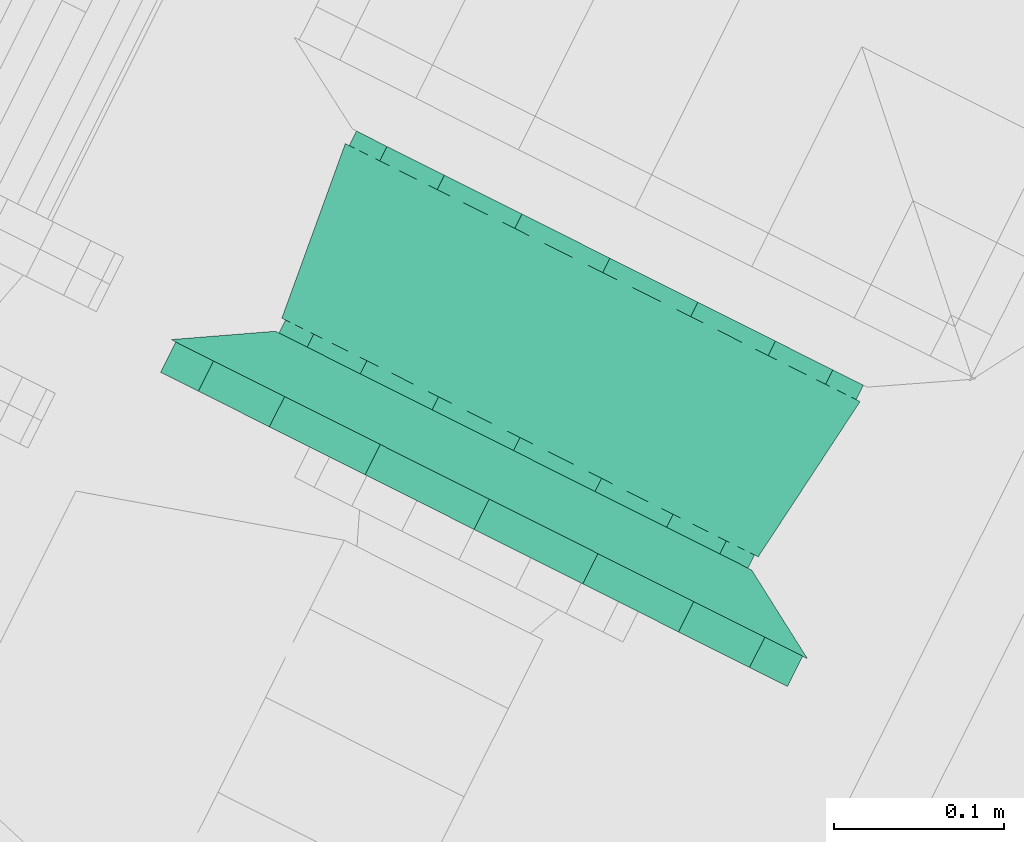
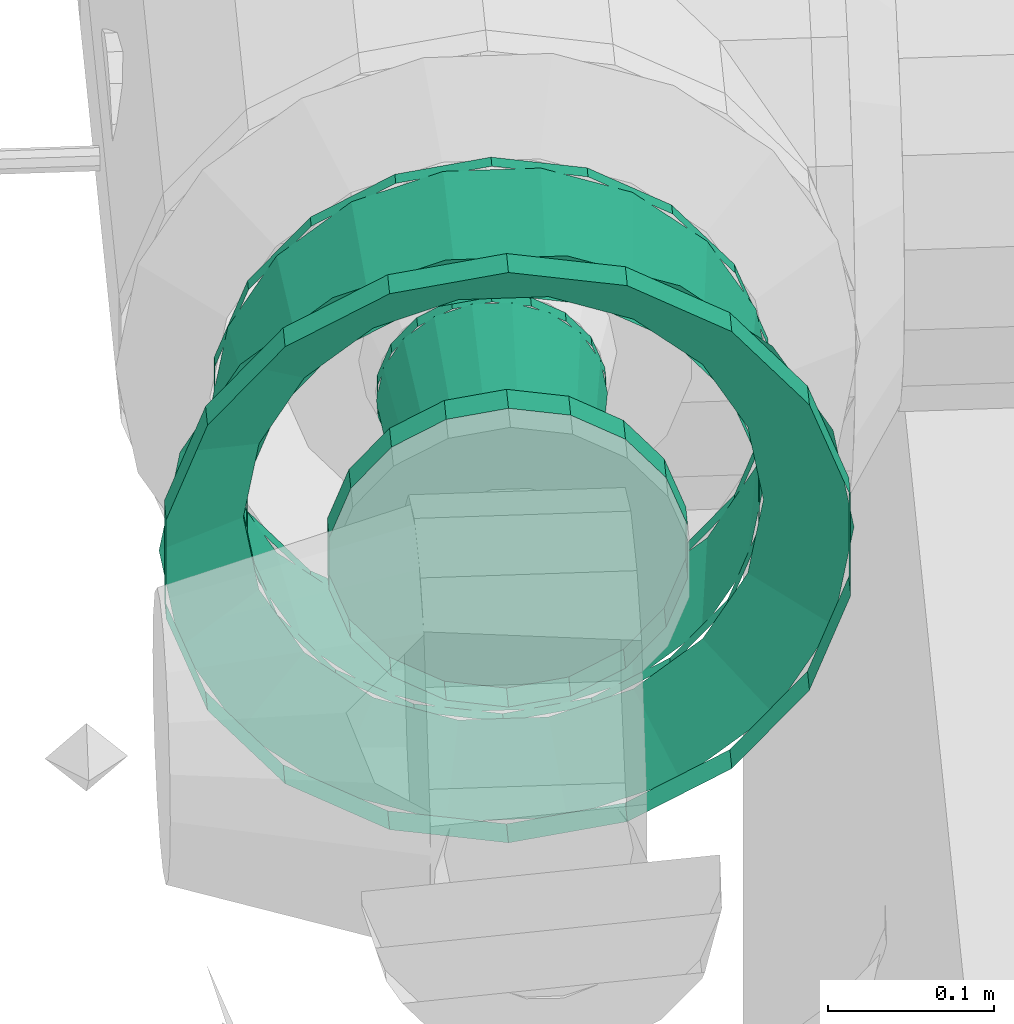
# One storey, part 71 of 206: 2 flow fittings.
"""IFC2X3 building model written with IfcOpenShell, lengths in metres."""

from ifc_helpers import new_model, si_unit, derived_unit, direction, frame, origin, place, context, subcontext, project, spatial, face_set, surface_model, source, transform, mapped, material, type_object, type_shapes, element, save


model = new_model("IFC2X3")

# Units and contexts
model_context = context("Model", 3, precision=5.2338327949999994e-05, world=origin(), true_north=direction((0.0, 1.0)))
body_context = subcontext(model_context, "Body", "Model", "MODEL_VIEW")
ifc_project = project(units=[si_unit("LENGTHUNIT", "METRE"), si_unit("AREAUNIT", "SQUARE_METRE"), si_unit("VOLUMEUNIT", "CUBIC_METRE"), si_unit("MASSUNIT", "GRAM", prefix="KILO"), si_unit("PLANEANGLEUNIT", "RADIAN"), derived_unit("THERMALTRANSMITTANCEUNIT", [(si_unit("MASSUNIT", "GRAM", prefix="KILO"), 1), (si_unit("THERMODYNAMICTEMPERATUREUNIT", "KELVIN"), -1), (si_unit("TIMEUNIT", "SECOND"), -3)])], contexts=[model_context])

# Site, building, storey
site_placement = place(None, frame((0.0, 0.0, 0.0), z_axis=(0.0, 0.0, 1.0), x_axis=(0.8939966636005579, -0.4480736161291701, 0.0)))
site = spatial("IfcSite", under=ifc_project, at=site_placement, Name="Default", CompositionType="ELEMENT")
building_placement = place(site_placement, origin())
building = spatial("IfcBuilding", under=site, at=building_placement, CompositionType="ELEMENT")
storey_placement = place(building_placement, origin())
storey = spatial("IfcBuildingStorey", under=building, at=storey_placement, Name="Erdgeschoss", CompositionType="ELEMENT", Elevation=0.0)

# Flow fittings
ifc_material = material(Name="IfcSurfaceStyle #1741")
distribution_element_type_1 = type_object("IfcDistributionElementType", Name="Flansch 340765:Flansch 340765", material=ifc_material)
shared_shape_1 = source(origin(), body_context, "Body", "SurfaceModel", [
    surface_model("IfcFaceBasedSurfaceModel", [(25.43985543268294, 6.22496109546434, 2.4639999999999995), (25.477477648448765, 6.22496109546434, 2.4573661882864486), (25.477477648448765, 6.2449610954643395, 2.4573661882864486), (25.43985543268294, 6.244961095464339, 2.4639999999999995), (25.510562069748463, 6.22496109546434, 2.4382648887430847), (25.510562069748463, 6.2449610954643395, 2.4382648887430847), (25.535118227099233, 6.22496109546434, 2.4089999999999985), (25.535118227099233, 6.2449610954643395, 2.4089999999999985), (25.54818428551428, 6.22496109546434, 2.3731012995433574), (25.54818428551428, 6.2449610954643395, 2.3731012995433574), (25.54818428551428, 6.22496109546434, 2.334898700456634), (25.54818428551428, 6.2449610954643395, 2.334898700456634), (25.535118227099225, 6.22496109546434, 2.2989999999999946), (25.535118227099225, 6.2449610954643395, 2.2989999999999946), (25.51056206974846, 6.22496109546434, 2.26973511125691), (25.51056206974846, 6.2449610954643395, 2.26973511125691), (25.47747764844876, 6.22496109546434, 2.2506338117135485), (25.47747764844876, 6.2449610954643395, 2.2506338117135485), (25.439855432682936, 6.22496109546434, 2.243999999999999), (25.439855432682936, 6.2449610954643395, 2.243999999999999), (25.40223321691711, 6.22496109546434, 2.2506338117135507), (25.40223321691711, 6.2449610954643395, 2.2506338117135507), (25.369148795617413, 6.22496109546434, 2.269735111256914), (25.369148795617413, 6.2449610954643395, 2.269735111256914), (25.344592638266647, 6.22496109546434, 2.2990000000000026), (25.344592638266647, 6.2449610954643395, 2.2990000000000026), (25.331526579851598, 6.22496109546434, 2.334898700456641), (25.331526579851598, 6.2449610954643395, 2.334898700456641), (25.331526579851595, 6.22496109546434, 2.373101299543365), (25.331526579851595, 6.2449610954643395, 2.373101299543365), (25.344592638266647, 6.22496109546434, 2.4090000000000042), (25.344592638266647, 6.2449610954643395, 2.4090000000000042), (25.369148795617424, 6.22496109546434, 2.438264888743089), (25.369148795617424, 6.2449610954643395, 2.438264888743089), (25.402233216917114, 6.22496109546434, 2.4573661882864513), (25.402233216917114, 6.2449610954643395, 2.4573661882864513), (25.439855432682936, 6.244961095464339, 2.3539999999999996), (25.505355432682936, 6.2449610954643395, 2.3539999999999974), (25.501405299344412, 6.2449610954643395, 2.331597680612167), (25.493558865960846, 6.2769610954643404, 2.3344535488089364), (25.497005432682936, 6.2769610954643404, 2.3539999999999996), (25.490031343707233, 6.2449610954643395, 2.3118974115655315), (25.483634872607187, 6.2769610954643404, 2.317264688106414), (25.472605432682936, 6.2449610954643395, 2.2972753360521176), (25.468430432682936, 6.2769610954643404, 2.3045066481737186), (25.45122938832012, 6.2449610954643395, 2.2894950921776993), (25.449779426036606, 6.2769610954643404, 2.297718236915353), (25.428481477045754, 6.2449610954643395, 2.2894950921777), (25.429931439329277, 6.2769610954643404, 2.2977182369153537), (25.407105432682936, 6.2449610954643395, 2.2972753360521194), (25.411280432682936, 6.2769610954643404, 2.3045066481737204), (25.389679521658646, 6.2449610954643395, 2.3118974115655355), (25.396075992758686, 6.2769610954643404, 2.317264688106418), (25.37830556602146, 6.2449610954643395, 2.3315976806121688), (25.386151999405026, 6.2769610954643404, 2.3344535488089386), (25.37435543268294, 6.244961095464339, 2.354000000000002), (25.382705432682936, 6.276961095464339, 2.3540000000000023), (25.37830556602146, 6.2449610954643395, 2.3764023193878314), (25.386151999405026, 6.2769610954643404, 2.3735464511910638), (25.389679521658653, 6.244961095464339, 2.396102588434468), (25.396075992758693, 6.276961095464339, 2.3907353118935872), (25.40710543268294, 6.2449610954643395, 2.410724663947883), (25.411280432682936, 6.2769610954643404, 2.4034933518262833), (25.428481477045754, 6.2449610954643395, 2.418504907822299), (25.429931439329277, 6.2769610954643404, 2.4102817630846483), (25.451229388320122, 6.2449610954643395, 2.4185049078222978), (25.449779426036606, 6.2769610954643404, 2.4102817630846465), (25.472605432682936, 6.2449610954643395, 2.4107246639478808), (25.468430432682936, 6.2769610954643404, 2.4034933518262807), (25.490031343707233, 6.2449610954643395, 2.3961025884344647), (25.48363487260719, 6.2769610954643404, 2.390735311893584), (25.501405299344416, 6.2449610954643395, 2.376402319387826), (25.49355886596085, 6.2769610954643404, 2.3735464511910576), (25.43985543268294, 6.22496109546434, 2.564), (25.511679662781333, 6.22496109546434, 2.551335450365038), (25.511679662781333, 6.2449610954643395, 2.551335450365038), (25.439855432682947, 6.244961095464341, 2.5639999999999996), (25.574840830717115, 6.22496109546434, 2.514869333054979), (25.574840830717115, 6.2449610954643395, 2.514869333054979), (25.621720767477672, 6.22496109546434, 2.458999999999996), (25.621720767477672, 6.2449610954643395, 2.458999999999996), (25.646665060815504, 6.22496109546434, 2.3904661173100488), (25.646665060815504, 6.2449610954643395, 2.3904661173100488), (25.6466650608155, 6.22496109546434, 2.317533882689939), (25.6466650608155, 6.2449610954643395, 2.317533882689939), (25.62172076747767, 6.22496109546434, 2.2489999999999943), (25.62172076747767, 6.2449610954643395, 2.2489999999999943), (25.574840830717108, 6.22496109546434, 2.1931306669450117), (25.574840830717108, 6.2449610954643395, 2.1931306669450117), (25.511679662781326, 6.22496109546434, 2.1566645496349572), (25.511679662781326, 6.2449610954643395, 2.1566645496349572), (25.439855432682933, 6.22496109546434, 2.1439999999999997), (25.439855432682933, 6.2449610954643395, 2.1439999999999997), (25.368031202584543, 6.22496109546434, 2.156664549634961), (25.368031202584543, 6.2449610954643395, 2.156664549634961), (25.30487003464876, 6.22496109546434, 2.1931306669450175), (25.30487003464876, 6.2449610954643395, 2.1931306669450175), (25.257990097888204, 6.22496109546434, 2.249000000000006), (25.257990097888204, 6.2449610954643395, 2.249000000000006), (25.233045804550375, 6.22496109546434, 2.3175338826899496), (25.233045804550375, 6.2449610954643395, 2.3175338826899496), (25.23304580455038, 6.22496109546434, 2.3904661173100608), (25.23304580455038, 6.2449610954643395, 2.3904661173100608), (25.257990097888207, 6.22496109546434, 2.459000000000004), (25.257990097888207, 6.2449610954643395, 2.459000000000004), (25.304870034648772, 6.22496109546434, 2.514869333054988), (25.304870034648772, 6.2449610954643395, 2.514869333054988), (25.368031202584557, 6.22496109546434, 2.5513354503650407), (25.368031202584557, 6.2449610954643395, 2.5513354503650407), (25.64985543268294, 6.244961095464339, 2.353999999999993), (25.63719088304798, 6.244961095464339, 2.2821757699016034), (25.587528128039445, 6.276961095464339, 2.3002515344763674), (25.59700543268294, 6.276961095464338, 2.353999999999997), (25.600724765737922, 6.2449610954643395, 2.2190146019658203), (25.56023931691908, 6.2769610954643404, 2.2529859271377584), (25.544855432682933, 6.244961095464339, 2.1721346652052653), (25.518430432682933, 6.276961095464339, 2.217904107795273), (25.476321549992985, 6.244961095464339, 2.147190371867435), (25.467144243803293, 6.276961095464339, 2.1992374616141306), (25.403389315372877, 6.2449610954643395, 2.1471903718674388), (25.41256662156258, 6.2769610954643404, 2.199237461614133), (25.33485543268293, 6.244961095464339, 2.172134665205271), (25.361280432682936, 6.276961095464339, 2.217904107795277), (25.278986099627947, 6.244961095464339, 2.2190146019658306), (25.319471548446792, 6.276961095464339, 2.2529859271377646), (25.242519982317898, 6.244961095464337, 2.2821757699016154), (25.29218273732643, 6.276961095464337, 2.300251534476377), (25.229855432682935, 6.244961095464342, 2.354000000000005), (25.282705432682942, 6.276961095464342, 2.354000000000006), (25.2425199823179, 6.244961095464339, 2.425824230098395), (25.292182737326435, 6.276961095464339, 2.407748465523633), (25.278986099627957, 6.244961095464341, 2.488985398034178), (25.319471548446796, 6.276961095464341, 2.455014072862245), (25.334855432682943, 6.2449610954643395, 2.5358653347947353), (25.361280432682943, 6.2769610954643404, 2.490095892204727), (25.40338931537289, 6.244961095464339, 2.5608096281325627), (25.412566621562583, 6.276961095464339, 2.5087625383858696), (25.476321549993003, 6.2449610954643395, 2.5608096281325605), (25.467144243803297, 6.2769610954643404, 2.5087625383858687), (25.544855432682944, 6.2449610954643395, 2.5358653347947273), (25.518430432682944, 6.2769610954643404, 2.490095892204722), (25.600724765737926, 6.244961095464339, 2.4889853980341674), (25.56023931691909, 6.276961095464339, 2.4550140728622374), (25.637190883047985, 6.2449610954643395, 2.425824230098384), (25.587528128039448, 6.2769610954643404, 2.407748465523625)], [face_set([[[0, 1, 2, 3]], [[1, 4, 5, 2]], [[4, 6, 7, 5]], [[6, 8, 9, 7]], [[8, 10, 11, 9]], [[10, 12, 13, 11]], [[12, 14, 15, 13]], [[14, 16, 17, 15]], [[16, 18, 19, 17]], [[18, 20, 21, 19]], [[20, 22, 23, 21]], [[22, 24, 25, 23]], [[24, 26, 27, 25]], [[26, 28, 29, 27]], [[28, 30, 31, 29]], [[30, 32, 33, 31]], [[32, 34, 35, 33]], [[34, 0, 3, 35]], [[36, 35, 3]], [[36, 33, 35]], [[36, 31, 33]], [[36, 29, 31]], [[36, 27, 29]], [[36, 25, 27]], [[36, 23, 25]], [[36, 21, 23]], [[36, 19, 21]], [[36, 17, 19]], [[36, 15, 17]], [[36, 13, 15]], [[36, 11, 13]], [[36, 9, 11]], [[36, 7, 9]], [[36, 5, 7]], [[36, 2, 5]], [[36, 3, 2]], [[37, 38, 39, 40]], [[38, 41, 42, 39]], [[41, 43, 44, 42]], [[43, 45, 46, 44]], [[45, 47, 48, 46]], [[47, 49, 50, 48]], [[49, 51, 52, 50]], [[51, 53, 54, 52]], [[53, 55, 56, 54]], [[55, 57, 58, 56]], [[57, 59, 60, 58]], [[59, 61, 62, 60]], [[61, 63, 64, 62]], [[63, 65, 66, 64]], [[65, 67, 68, 66]], [[67, 69, 70, 68]], [[69, 71, 72, 70]], [[71, 37, 40, 72]], [[73, 74, 75, 76]], [[74, 77, 78, 75]], [[77, 79, 80, 78]], [[79, 81, 82, 80]], [[81, 83, 84, 82]], [[83, 85, 86, 84]], [[85, 87, 88, 86]], [[87, 89, 90, 88]], [[89, 91, 92, 90]], [[91, 93, 94, 92]], [[93, 95, 96, 94]], [[95, 97, 98, 96]], [[97, 99, 100, 98]], [[99, 101, 102, 100]], [[101, 103, 104, 102]], [[103, 105, 106, 104]], [[105, 107, 108, 106]], [[107, 73, 76, 108]], [[109, 110, 111, 112]], [[110, 113, 114, 111]], [[113, 115, 116, 114]], [[115, 117, 118, 116]], [[117, 119, 120, 118]], [[119, 121, 122, 120]], [[121, 123, 124, 122]], [[123, 125, 126, 124]], [[125, 127, 128, 126]], [[127, 129, 130, 128]], [[129, 131, 132, 130]], [[131, 133, 134, 132]], [[133, 135, 136, 134]], [[135, 137, 138, 136]], [[137, 139, 140, 138]], [[139, 141, 142, 140]], [[141, 143, 144, 142]], [[143, 109, 112, 144]]])]),
])
type_shapes(distribution_element_type_1, [shared_shape_1])
flow_fitting_1_placement = place(storey_placement, origin())
element("IfcFlowFitting", 1, at=flow_fitting_1_placement, inside=storey, type_object=distribution_element_type_1, material=ifc_material, Name="Flansch", ObjectType="Flansch", context=body_context, shape_type="MappedRepresentation", body=[
    mapped(shared_shape_1, transform((0.0, 0.0, 0.0), scale=1.0)),
])
distribution_element_type_2 = type_object("IfcDistributionElementType", Name="Übergangsstück 340788:Übergangsstück 340788", material=ifc_material)
shared_shape_2 = source(origin(), body_context, "Body", "SurfaceModel", [
    surface_model("IfcFaceBasedSurfaceModel", [(25.43985543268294, 6.403961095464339, 2.4238499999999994), (25.415965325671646, 6.403961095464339, 2.4196375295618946), (25.415965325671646, 6.3944319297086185, 2.4196375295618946), (25.43985543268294, 6.3944319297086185, 2.4238499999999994), (25.39495671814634, 6.403961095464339, 2.4075082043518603), (25.39495671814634, 6.3944319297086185, 2.4075082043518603), (25.379363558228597, 6.403961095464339, 2.388925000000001), (25.379363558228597, 6.3944319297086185, 2.388925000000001), (25.37106661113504, 6.403961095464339, 2.3661293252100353), (25.37106661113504, 6.3944319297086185, 2.3661293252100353), (25.37106661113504, 6.403961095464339, 2.341870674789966), (25.37106661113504, 6.3944319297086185, 2.341870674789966), (25.379363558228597, 6.403961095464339, 2.3190750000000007), (25.379363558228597, 6.3944319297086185, 2.3190750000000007), (25.394956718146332, 6.403961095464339, 2.3004917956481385), (25.394956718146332, 6.3944319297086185, 2.3004917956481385), (25.415965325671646, 6.403961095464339, 2.2883624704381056), (25.415965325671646, 6.3944319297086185, 2.2883624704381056), (25.43985543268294, 6.403961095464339, 2.28415), (25.43985543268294, 6.3944319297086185, 2.28415), (25.463745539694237, 6.403961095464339, 2.2883624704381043), (25.463745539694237, 6.3944319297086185, 2.2883624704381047), (25.484754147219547, 6.403961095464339, 2.3004917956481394), (25.484754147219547, 6.3944319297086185, 2.3004917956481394), (25.500347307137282, 6.403961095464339, 2.319074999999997), (25.500347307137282, 6.3944319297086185, 2.319074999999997), (25.50864425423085, 6.403961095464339, 2.3418706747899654), (25.50864425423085, 6.3944319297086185, 2.3418706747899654), (25.50864425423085, 6.403961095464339, 2.366129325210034), (25.50864425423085, 6.3944319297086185, 2.366129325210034), (25.500347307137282, 6.403961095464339, 2.3889249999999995), (25.500347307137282, 6.3944319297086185, 2.3889249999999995), (25.484754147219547, 6.403961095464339, 2.40750820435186), (25.484754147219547, 6.3944319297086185, 2.40750820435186), (25.46374553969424, 6.403961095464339, 2.419637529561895), (25.46374553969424, 6.3944319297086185, 2.419637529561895), (25.439855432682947, 6.403961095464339, 2.5238500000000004), (25.381763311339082, 6.403961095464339, 2.5136067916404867), (25.381763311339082, 6.3944319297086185, 2.5136067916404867), (25.439855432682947, 6.3944319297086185, 2.5238500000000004), (25.330677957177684, 6.403961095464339, 2.4841126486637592), (25.330677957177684, 6.3944319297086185, 2.4841126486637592), (25.292761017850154, 6.403961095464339, 2.4389250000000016), (25.292761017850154, 6.3944319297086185, 2.4389250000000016), (25.272585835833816, 6.403961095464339, 2.3834941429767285), (25.272585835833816, 6.3944319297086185, 2.3834941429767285), (25.272585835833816, 6.403961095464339, 2.324505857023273), (25.272585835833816, 6.3944319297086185, 2.324505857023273), (25.292761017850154, 6.403961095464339, 2.269075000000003), (25.292761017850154, 6.3944319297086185, 2.269075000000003), (25.330677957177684, 6.403961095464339, 2.2238873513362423), (25.330677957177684, 6.3944319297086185, 2.2238873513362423), (25.38176331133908, 6.403961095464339, 2.1943932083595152), (25.38176331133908, 6.3944319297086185, 2.1943932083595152), (25.439855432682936, 6.403961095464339, 2.18415), (25.439855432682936, 6.3944319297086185, 2.18415), (25.497947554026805, 6.403961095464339, 2.1943932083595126), (25.497947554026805, 6.3944319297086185, 2.1943932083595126), (25.5490329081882, 6.403961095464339, 2.2238873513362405), (25.5490329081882, 6.3944319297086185, 2.2238873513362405), (25.58694984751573, 6.403961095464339, 2.2690749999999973), (25.58694984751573, 6.3944319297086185, 2.2690749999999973), (25.607125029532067, 6.403961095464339, 2.3245058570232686), (25.607125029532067, 6.3944319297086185, 2.3245058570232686), (25.607125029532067, 6.403961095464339, 2.3834941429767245), (25.607125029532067, 6.3944319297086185, 2.3834941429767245), (25.58694984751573, 6.403961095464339, 2.438924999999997), (25.58694984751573, 6.3944319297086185, 2.438924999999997), (25.5490329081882, 6.403961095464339, 2.4841126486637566), (25.5490329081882, 6.3944319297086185, 2.4841126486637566), (25.49794755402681, 6.403961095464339, 2.5136067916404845), (25.49794755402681, 6.3944319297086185, 2.5136067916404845), (25.370005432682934, 6.394431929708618, 2.3539999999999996), (25.374217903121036, 6.394431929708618, 2.330109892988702), (25.38615199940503, 6.285580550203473, 2.3344535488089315), (25.38270543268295, 6.285580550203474, 2.353999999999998), (25.386347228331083, 6.3944319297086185, 2.3091012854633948), (25.3960759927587, 6.285580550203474, 2.31726468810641), (25.404930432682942, 6.3944319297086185, 2.293508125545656), (25.411280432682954, 6.285580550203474, 2.3045066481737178), (25.427726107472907, 6.3944319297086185, 2.285211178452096), (25.429931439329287, 6.285580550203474, 2.297718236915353), (25.45198475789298, 6.3944319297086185, 2.285211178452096), (25.449779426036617, 6.285580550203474, 2.2977182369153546), (25.474780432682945, 6.3944319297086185, 2.293508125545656), (25.468430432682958, 6.285580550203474, 2.3045066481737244), (25.493363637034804, 6.3944319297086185, 2.3091012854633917), (25.483634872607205, 6.285580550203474, 2.3172646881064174), (25.505492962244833, 6.3944319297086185, 2.3301098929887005), (25.493558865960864, 6.285580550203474, 2.3344535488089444), (25.509705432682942, 6.3944319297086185, 2.3539999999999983), (25.49700543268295, 6.285580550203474, 2.3540000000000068), (25.505492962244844, 6.3944319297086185, 2.377890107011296), (25.493558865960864, 6.285580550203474, 2.3735464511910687), (25.493363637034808, 6.3944319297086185, 2.398898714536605), (25.483634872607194, 6.285580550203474, 2.3907353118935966), (25.47478043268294, 6.3944319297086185, 2.414491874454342), (25.46843043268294, 6.285580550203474, 2.4034933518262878), (25.45198475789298, 6.3944319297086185, 2.422788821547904), (25.449779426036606, 6.285580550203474, 2.410281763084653), (25.427726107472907, 6.3944319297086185, 2.422788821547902), (25.429931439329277, 6.285580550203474, 2.410281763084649), (25.404930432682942, 6.3944319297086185, 2.414491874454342), (25.41128043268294, 6.285580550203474, 2.403493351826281), (25.386347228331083, 6.3944319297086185, 2.398898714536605), (25.396075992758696, 6.285580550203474, 2.390735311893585), (25.37421790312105, 6.3944319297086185, 2.3778901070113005), (25.386151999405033, 6.285580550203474, 2.373546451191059), (25.43985543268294, 6.285580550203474, 2.4111500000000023), (25.42030898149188, 6.285580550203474, 2.4077034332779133), (25.42030898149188, 6.276961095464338, 2.4077034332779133), (25.43985543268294, 6.276961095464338, 2.4111500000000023), (25.40312012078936, 6.285580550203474, 2.397779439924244), (25.40312012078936, 6.276961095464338, 2.397779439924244), (25.39036208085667, 6.285580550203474, 2.382574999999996), (25.39036208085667, 6.276961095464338, 2.382574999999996), (25.3835736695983, 6.285580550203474, 2.3639239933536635), (25.3835736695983, 6.276961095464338, 2.3639239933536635), (25.3835736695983, 6.285580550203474, 2.344076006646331), (25.3835736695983, 6.276961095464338, 2.344076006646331), (25.390362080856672, 6.285580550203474, 2.3254249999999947), (25.390362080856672, 6.276961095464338, 2.3254249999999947), (25.40312012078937, 6.285580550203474, 2.3102205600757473), (25.40312012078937, 6.276961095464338, 2.3102205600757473), (25.420308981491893, 6.285580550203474, 2.3002965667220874), (25.420308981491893, 6.276961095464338, 2.3002965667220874), (25.439855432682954, 6.285580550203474, 2.296850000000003), (25.439855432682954, 6.276961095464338, 2.296850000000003), (25.45940188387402, 6.285580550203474, 2.3002965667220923), (25.45940188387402, 6.276961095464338, 2.3002965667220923), (25.476590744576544, 6.285580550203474, 2.3102205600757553), (25.476590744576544, 6.276961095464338, 2.3102205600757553), (25.489348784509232, 6.285580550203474, 2.3254250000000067), (25.489348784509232, 6.276961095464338, 2.3254250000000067), (25.4961371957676, 6.285580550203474, 2.3440760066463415), (25.4961371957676, 6.276961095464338, 2.3440760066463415), (25.4961371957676, 6.285580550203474, 2.363923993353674), (25.4961371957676, 6.276961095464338, 2.363923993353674), (25.489348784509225, 6.285580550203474, 2.38257500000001), (25.489348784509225, 6.276961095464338, 2.38257500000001), (25.47659074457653, 6.285580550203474, 2.397779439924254), (25.47659074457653, 6.276961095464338, 2.397779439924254), (25.459401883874, 6.285580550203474, 2.4077034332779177), (25.459401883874, 6.276961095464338, 2.4077034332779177), (25.27000543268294, 6.3944319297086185, 2.354000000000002), (25.280248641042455, 6.3944319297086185, 2.2959078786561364), (25.292182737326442, 6.285580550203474, 2.3002515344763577), (25.282705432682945, 6.285580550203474, 2.353999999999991), (25.309742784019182, 6.3944319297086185, 2.244822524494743), (25.31947154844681, 6.285580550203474, 2.252985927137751), (25.35493043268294, 6.3944319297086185, 2.206905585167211), (25.36128043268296, 6.285580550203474, 2.2179041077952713), (25.410361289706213, 6.3944319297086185, 2.1867304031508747), (25.412566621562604, 6.285580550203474, 2.1992374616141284), (25.46934957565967, 6.3944319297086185, 2.186730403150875), (25.467144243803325, 6.285580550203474, 2.199237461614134), (25.52478043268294, 6.3944319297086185, 2.2069055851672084), (25.518430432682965, 6.285580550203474, 2.2179041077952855), (25.5699680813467, 6.3944319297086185, 2.2448225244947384), (25.56023931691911, 6.285580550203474, 2.2529859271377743), (25.599462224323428, 6.3944319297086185, 2.2959078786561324), (25.587528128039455, 6.285580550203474, 2.3002515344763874), (25.60970543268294, 6.3944319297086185, 2.353999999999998), (25.59700543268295, 6.285580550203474, 2.3540000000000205), (25.599462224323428, 6.3944319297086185, 2.412092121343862), (25.58752812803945, 6.285580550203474, 2.4077484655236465), (25.569968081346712, 6.3944319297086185, 2.4631774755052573), (25.56023931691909, 6.285580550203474, 2.4550140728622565), (25.524780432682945, 6.3944319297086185, 2.5010944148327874), (25.518430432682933, 6.285580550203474, 2.490095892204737), (25.46934957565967, 6.3944319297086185, 2.521269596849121), (25.467144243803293, 6.285580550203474, 2.5087625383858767), (25.410361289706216, 6.3944319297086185, 2.5212695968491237), (25.41256662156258, 6.285580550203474, 2.5087625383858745), (25.354930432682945, 6.3944319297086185, 2.50109441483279), (25.36128043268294, 6.285580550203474, 2.4900958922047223), (25.309742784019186, 6.3944319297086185, 2.4631774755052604), (25.319471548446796, 6.285580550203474, 2.4550140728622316), (25.280248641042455, 6.3944319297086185, 2.412092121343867), (25.29218273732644, 6.285580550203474, 2.4077484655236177), (25.439855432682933, 6.285580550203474, 2.511150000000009), (25.386106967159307, 6.285580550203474, 2.501672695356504), (25.386106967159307, 6.276961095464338, 2.501672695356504), (25.439855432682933, 6.276961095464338, 2.511150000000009), (25.338841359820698, 6.285580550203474, 2.4743838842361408), (25.338841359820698, 6.276961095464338, 2.4743838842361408), (25.303759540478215, 6.285580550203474, 2.4325749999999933), (25.303759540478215, 6.276961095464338, 2.4325749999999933), (25.285092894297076, 6.285580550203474, 2.381288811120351), (25.285092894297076, 6.276961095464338, 2.381288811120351), (25.285092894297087, 6.285580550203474, 2.3267111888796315), (25.285092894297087, 6.276961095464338, 2.3267111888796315), (25.303759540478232, 6.285580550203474, 2.275424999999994), (25.303759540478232, 6.276961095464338, 2.275424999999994), (25.338841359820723, 6.285580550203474, 2.2336161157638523), (25.338841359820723, 6.276961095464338, 2.2336161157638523), (25.386106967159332, 6.285580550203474, 2.2063273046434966), (25.386106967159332, 6.276961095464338, 2.2063273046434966), (25.43985543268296, 6.285580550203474, 2.1968500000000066), (25.43985543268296, 6.276961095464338, 2.1968500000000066), (25.49360389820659, 6.285580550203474, 2.2063273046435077), (25.49360389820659, 6.276961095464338, 2.2063273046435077), (25.5408695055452, 6.285580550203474, 2.2336161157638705), (25.5408695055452, 6.276961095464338, 2.2336161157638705), (25.57595132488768, 6.285580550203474, 2.2754250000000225), (25.57595132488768, 6.276961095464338, 2.2754250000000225), (25.594617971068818, 6.285580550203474, 2.326711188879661), (25.594617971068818, 6.276961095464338, 2.326711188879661), (25.594617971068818, 6.285580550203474, 2.3812888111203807), (25.594617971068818, 6.276961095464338, 2.3812888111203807), (25.57595132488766, 6.285580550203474, 2.432575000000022), (25.57595132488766, 6.276961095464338, 2.432575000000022), (25.540869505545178, 6.285580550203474, 2.474383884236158), (25.540869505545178, 6.276961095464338, 2.474383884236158), (25.493603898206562, 6.285580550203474, 2.501672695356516), (25.493603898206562, 6.276961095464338, 2.501672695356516)], [face_set([[[0, 1, 2, 3]], [[1, 4, 5, 2]], [[4, 6, 7, 5]], [[6, 8, 9, 7]], [[8, 10, 11, 9]], [[10, 12, 13, 11]], [[12, 14, 15, 13]], [[14, 16, 17, 15]], [[16, 18, 19, 17]], [[18, 20, 21, 19]], [[20, 22, 23, 21]], [[22, 24, 25, 23]], [[24, 26, 27, 25]], [[26, 28, 29, 27]], [[28, 30, 31, 29]], [[30, 32, 33, 31]], [[32, 34, 35, 33]], [[34, 0, 3, 35]], [[36, 37, 38, 39]], [[37, 40, 41, 38]], [[40, 42, 43, 41]], [[42, 44, 45, 43]], [[44, 46, 47, 45]], [[46, 48, 49, 47]], [[48, 50, 51, 49]], [[50, 52, 53, 51]], [[52, 54, 55, 53]], [[54, 56, 57, 55]], [[56, 58, 59, 57]], [[58, 60, 61, 59]], [[60, 62, 63, 61]], [[62, 64, 65, 63]], [[64, 66, 67, 65]], [[66, 68, 69, 67]], [[68, 70, 71, 69]], [[70, 36, 39, 71]], [[72, 73, 74, 75]], [[73, 76, 77, 74]], [[76, 78, 79, 77]], [[78, 80, 81, 79]], [[80, 82, 83, 81]], [[82, 84, 85, 83]], [[84, 86, 87, 85]], [[86, 88, 89, 87]], [[88, 90, 91, 89]], [[90, 92, 93, 91]], [[92, 94, 95, 93]], [[94, 96, 97, 95]], [[96, 98, 99, 97]], [[98, 100, 101, 99]], [[100, 102, 103, 101]], [[102, 104, 105, 103]], [[104, 106, 107, 105]], [[106, 72, 75, 107]], [[108, 109, 110, 111]], [[109, 112, 113, 110]], [[112, 114, 115, 113]], [[114, 116, 117, 115]], [[116, 118, 119, 117]], [[118, 120, 121, 119]], [[120, 122, 123, 121]], [[122, 124, 125, 123]], [[124, 126, 127, 125]], [[126, 128, 129, 127]], [[128, 130, 131, 129]], [[130, 132, 133, 131]], [[132, 134, 135, 133]], [[134, 136, 137, 135]], [[136, 138, 139, 137]], [[138, 140, 141, 139]], [[140, 142, 143, 141]], [[142, 108, 111, 143]], [[144, 145, 146, 147]], [[145, 148, 149, 146]], [[148, 150, 151, 149]], [[150, 152, 153, 151]], [[152, 154, 155, 153]], [[154, 156, 157, 155]], [[156, 158, 159, 157]], [[158, 160, 161, 159]], [[160, 162, 163, 161]], [[162, 164, 165, 163]], [[164, 166, 167, 165]], [[166, 168, 169, 167]], [[168, 170, 171, 169]], [[170, 172, 173, 171]], [[172, 174, 175, 173]], [[174, 176, 177, 175]], [[176, 178, 179, 177]], [[178, 144, 147, 179]], [[180, 181, 182, 183]], [[181, 184, 185, 182]], [[184, 186, 187, 185]], [[186, 188, 189, 187]], [[188, 190, 191, 189]], [[190, 192, 193, 191]], [[192, 194, 195, 193]], [[194, 196, 197, 195]], [[196, 198, 199, 197]], [[198, 200, 201, 199]], [[200, 202, 203, 201]], [[202, 204, 205, 203]], [[204, 206, 207, 205]], [[206, 208, 209, 207]], [[208, 210, 211, 209]], [[210, 212, 213, 211]], [[212, 214, 215, 213]], [[214, 180, 183, 215]]])]),
])
type_shapes(distribution_element_type_2, [shared_shape_2])
flow_fitting_2_placement = place(storey_placement, origin())
element("IfcFlowFitting", 2, at=flow_fitting_2_placement, inside=storey, type_object=distribution_element_type_2, material=ifc_material, Name="Übergangsstück", ObjectType="Übergangsstück", context=body_context, shape_type="MappedRepresentation", body=[
    mapped(shared_shape_2, transform((0.0, 0.0, 0.0), scale=1.0)),
])

save(model, "model.ifc")
